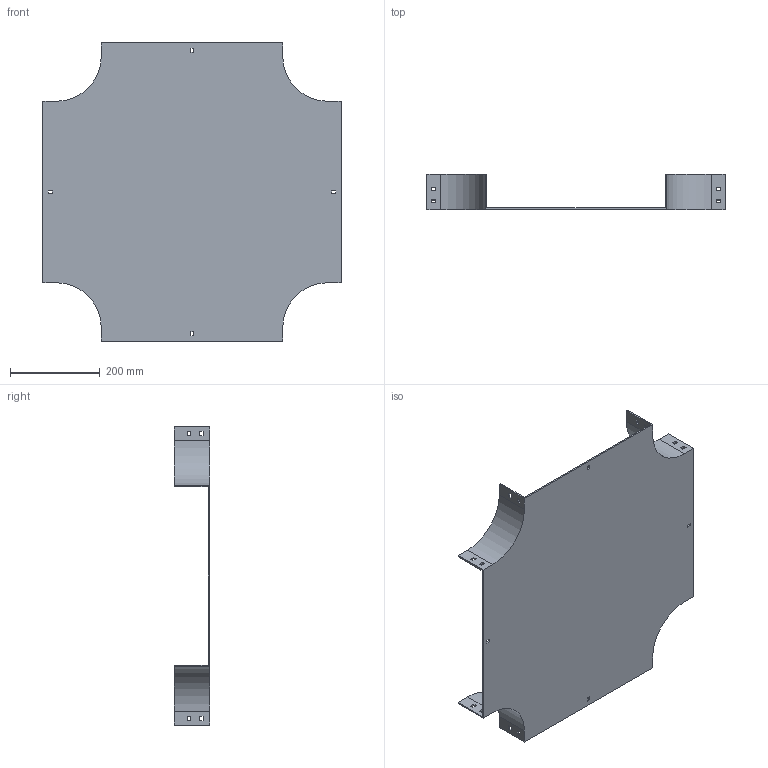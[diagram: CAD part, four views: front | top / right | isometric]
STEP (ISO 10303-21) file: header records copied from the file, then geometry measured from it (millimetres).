
FILE_DESCRIPTION (( 'STEP AP214' ), '1' );
FILE_NAME ('17F1C400.step', '2025-02-21T13:06:21', ( '' ), ( '' ), 'SwSTEP 2.0', 'SolidWorks 2023', '' );
FILE_SCHEMA (( 'AUTOMOTIVE_DESIGN' ));
Length unit declared in the file: millimetre
Products named in the file (1): 17F1C400
Bounding box: 664 x 79 x 664 mm (x, y, z)
Volume: 1564200 mm3; surface area: 906975.7 mm2
Topology: 1 solids, 1 shells, 114 faces, 336 edges, 224 vertices
Faces by surface type: plane 106, cylinder 8
Entity records: 3839 total; most frequent: CARTESIAN_POINT 675, ORIENTED_EDGE 672, DIRECTION 582, EDGE_CURVE 336, LINE 320, VECTOR 320, VERTEX_POINT 224, EDGE_LOOP 154
